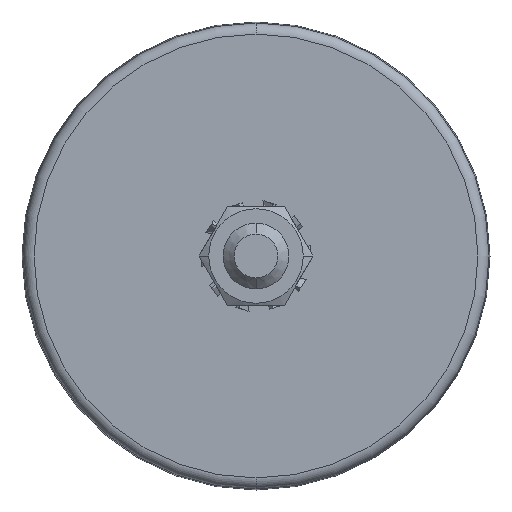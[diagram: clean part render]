
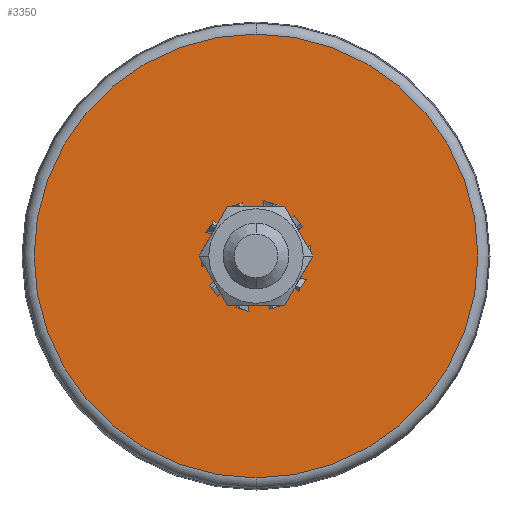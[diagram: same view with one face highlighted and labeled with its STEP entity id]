
A CAD part, front view. The second image highlights one B-rep face of the part: STEP entity #3350.
In plain terms, the highlighted planar face has unit normal (0, -1, 0).
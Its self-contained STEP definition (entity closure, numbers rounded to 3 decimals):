
#56 = VERTEX_POINT ( 'NONE', #1458 ) ;
#284 = CARTESIAN_POINT ( 'NONE',  ( 0., 0., 40.5 ) ) ;
#317 = DIRECTION ( 'NONE',  ( 0., -1., 0. ) ) ;
#387 = CARTESIAN_POINT ( 'NONE',  ( 0., 0., 0. ) ) ;
#792 = PLANE ( 'NONE',  #2686 ) ;
#827 = EDGE_LOOP ( 'NONE', ( #3517, #975 ) ) ;
#905 = AXIS2_PLACEMENT_3D ( 'NONE', #6334, #1187, #3472 ) ;
#975 = ORIENTED_EDGE ( 'NONE', *, *, #3819, .T. ) ;
#1187 = DIRECTION ( 'NONE',  ( 0., 1., 0. ) ) ;
#1401 = CARTESIAN_POINT ( 'NONE',  ( 0., 0., 0. ) ) ;
#1458 = CARTESIAN_POINT ( 'NONE',  ( 0., 0., 8. ) ) ;
#1638 = FACE_OUTER_BOUND ( 'NONE', #827, .T. ) ;
#1683 = DIRECTION ( 'NONE',  ( 0., 0., -1. ) ) ;
#2004 = DIRECTION ( 'NONE',  ( 0., 0., -1. ) ) ;
#2067 = AXIS2_PLACEMENT_3D ( 'NONE', #7391, #6245, #1683 ) ;
#2183 = VERTEX_POINT ( 'NONE', #284 ) ;
#2543 = DIRECTION ( 'NONE',  ( 0., 0., -1. ) ) ;
#2686 = AXIS2_PLACEMENT_3D ( 'NONE', #6671, #317, #2543 ) ;
#2694 = CIRCLE ( 'NONE', #2697, 8. ) ;
#2697 = AXIS2_PLACEMENT_3D ( 'NONE', #387, #6070, #3157 ) ;
#2943 = ORIENTED_EDGE ( 'NONE', *, *, #3095, .T. ) ;
#3095 = EDGE_CURVE ( 'NONE', #5565, #56, #5144, .T. ) ;
#3146 = EDGE_LOOP ( 'NONE', ( #2943, #5914 ) ) ;
#3157 = DIRECTION ( 'NONE',  ( 0., 0., -1. ) ) ;
#3350 = ADVANCED_FACE ( 'NONE', ( #5407, #1638 ), #792, .T. ) ;
#3472 = DIRECTION ( 'NONE',  ( 0., 0., -1. ) ) ;
#3517 = ORIENTED_EDGE ( 'NONE', *, *, #6875, .T. ) ;
#3713 = VERTEX_POINT ( 'NONE', #6715 ) ;
#3819 = EDGE_CURVE ( 'NONE', #2183, #3713, #5227, .T. ) ;
#5034 = EDGE_CURVE ( 'NONE', #56, #5565, #2694, .T. ) ;
#5144 = CIRCLE ( 'NONE', #905, 8. ) ;
#5227 = CIRCLE ( 'NONE', #2067, 40.5 ) ;
#5407 = FACE_BOUND ( 'NONE', #3146, .T. ) ;
#5565 = VERTEX_POINT ( 'NONE', #5688 ) ;
#5688 = CARTESIAN_POINT ( 'NONE',  ( 0., 0., -8. ) ) ;
#5914 = ORIENTED_EDGE ( 'NONE', *, *, #5034, .T. ) ;
#6070 = DIRECTION ( 'NONE',  ( 0., 1., 0. ) ) ;
#6109 = DIRECTION ( 'NONE',  ( 0., -1., 0. ) ) ;
#6245 = DIRECTION ( 'NONE',  ( 0., -1., 0. ) ) ;
#6334 = CARTESIAN_POINT ( 'NONE',  ( 0., 0., 0. ) ) ;
#6451 = CIRCLE ( 'NONE', #6774, 40.5 ) ;
#6671 = CARTESIAN_POINT ( 'NONE',  ( 6., 0., 0. ) ) ;
#6715 = CARTESIAN_POINT ( 'NONE',  ( 0., 0., -40.5 ) ) ;
#6774 = AXIS2_PLACEMENT_3D ( 'NONE', #1401, #6109, #2004 ) ;
#6875 = EDGE_CURVE ( 'NONE', #3713, #2183, #6451, .T. ) ;
#7391 = CARTESIAN_POINT ( 'NONE',  ( 0., 0., 0. ) ) ;
